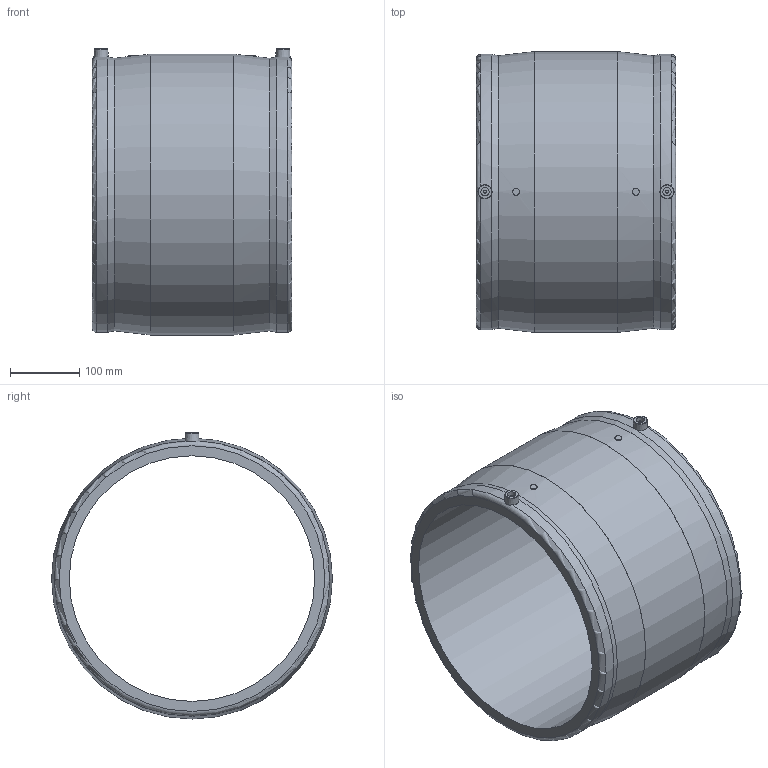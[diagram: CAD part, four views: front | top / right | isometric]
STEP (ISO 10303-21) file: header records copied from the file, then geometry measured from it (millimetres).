
FILE_DESCRIPTION(/* description */ ('Unknown'),/* implementation_level */ '2;1');
FILE_NAME(/* name */ 'MP355A',/* time_stamp */ '2021-05-06T10:48:44+02:00',/* author */ ('Unknown'),/* organization */ ('Unknown'),/* preprocessor_version */ 'ST-DEVELOPER v16.7',/* originating_system */ 'Solid Edge',/* authorisation */ 'Unknown');
FILE_SCHEMA (('AUTOMOTIVE_DESIGN {1 0 10303 214 3 1 1}'));
Length unit declared in the file: millimetre
Products named in the file (1): MP355A
Bounding box: 289 x 406 x 413.5 mm (x, y, z)
Volume: 8048046.2 mm3; surface area: 734941.8 mm2
Topology: 1 solids, 1 shells, 34 faces, 78 edges, 50 vertices
Faces by surface type: plane 12, cylinder 10, torus 6, cone 6
Full cylindrical faces by diameter (mm): 4 x2, 10 x2, 12 x2, 355 x1, 406 x1
Entity records: 814 total; most frequent: CARTESIAN_POINT 189, DIRECTION 130, ORIENTED_EDGE 84, AXIS2_PLACEMENT_3D 65, EDGE_LOOP 62, FACE_BOUND 62, EDGE_CURVE 42, VERTEX_POINT 36
